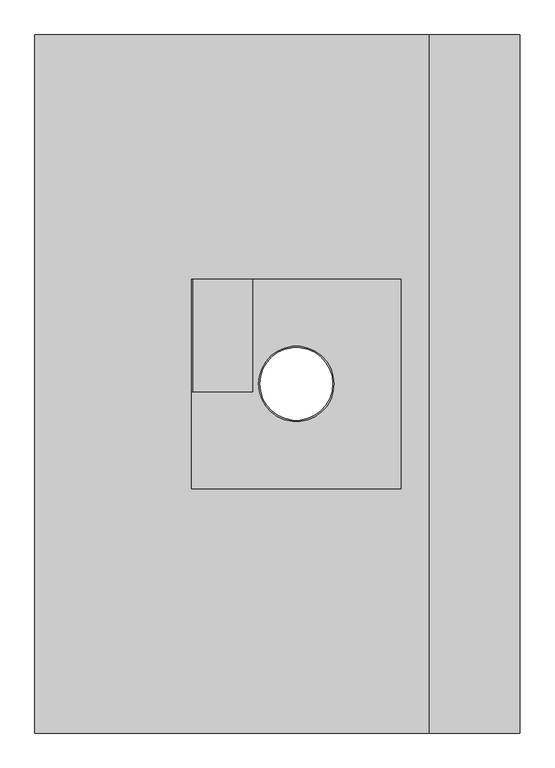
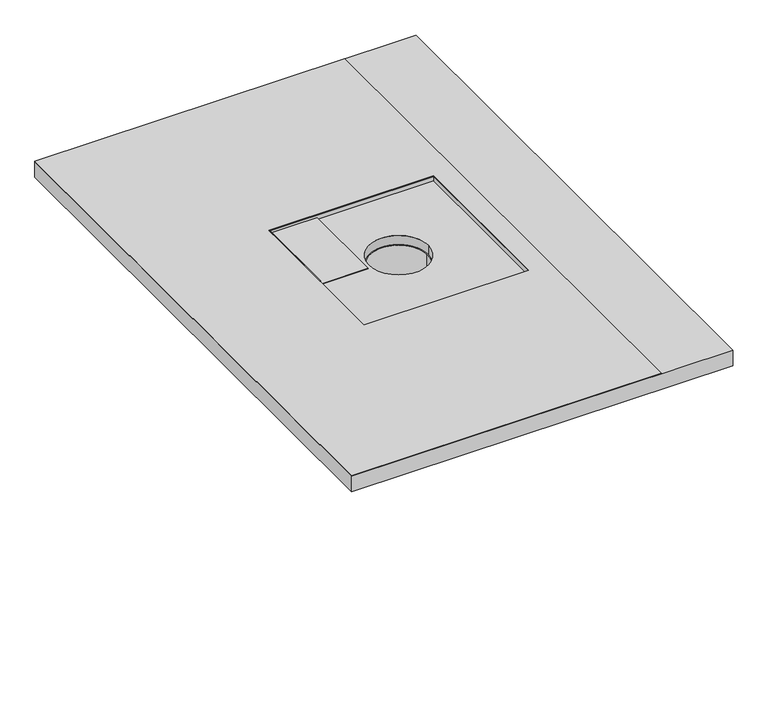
"""IFC4 building model written with IfcOpenShell, lengths in millimetres: proxy geometry, IMPER:IMPER:433934 : IMPER:IMPER:433934."""

from ifc_helpers import new_model, si_unit, point, frame, frame_2d, origin, place, context, project, spatial, polyline, circle_curve, trimmed, segment, composite_curve, outline, extrude, source, transform, mapped, element, save
from ifc_brep_helpers import plane_surface, revolved_surface, advanced_brep


def generic_models_effe8710(model_context):
    return source(origin(), model_context, "Body", "SolidModel", [
        extrude(outline(polyline([(28.5018705, 773.6644952), (28.5018705, 772.6644952), (21.4797492, 772.6644952), (21.4797492, 860.1703196), (22.4797492, 860.1703196), (22.4797492, 773.6644952), (28.5018705, 773.6644952)])), frame((0.0, -1249.0790672, 0.0), z_axis=(0.0, 1.0, 0.0), x_axis=(0.0, 0.0, 1.0)), (0.0, 0.0, 1.0), 161.0878647),
        extrude(outline(composite_curve([segment(trimmed(circle_curve(frame_2d((922.6644952, -1237.9912025)), 54.0), [point((976.6644952, -1237.9912025))], [point((868.6644952, -1237.9912025))], False, "CARTESIAN"), True, "CONTINUOUS"), segment(trimmed(circle_curve(frame_2d((922.6644952, -1237.9912025)), 54.0), [point((868.6644952, -1237.9912025))], [point((976.6644952, -1237.9912025))], False, "CARTESIAN"), True, "CONTINUOUS")], self_intersect=False), holes=[composite_curve([segment(trimmed(circle_curve(frame_2d((922.6644952, -1237.9912025)), 52.0), [point((974.6644952, -1237.9912025))], [point((870.6644952, -1237.9912025))], True, "CARTESIAN"), True, "CONTINUOUS"), segment(trimmed(circle_curve(frame_2d((922.6644952, -1237.9912025)), 52.0), [point((870.6644952, -1237.9912025))], [point((974.6644952, -1237.9912025))], True, "CARTESIAN"), True, "CONTINUOUS")], self_intersect=False)]), frame((0.0, 0.0, -340.9331242), z_axis=(0.0, 0.0, 1.0), x_axis=(1.0, 0.0, 0.0)), (0.0, 0.0, 1.0), 343.0051027),
        advanced_brep(
        [(1243.085242, -738.0570215, 27.476202), (1243.085242, -738.0570215, -2.523798), (547.8103968, -738.0570215, -2.523798), (547.8103968, -738.0570215, 27.476202), (1243.085242, -1738.0570215, 27.476202), (547.8103968, -1738.0570215, 27.476202), (547.8103968, -1738.0570215, -2.523798), (1243.085242, -1738.0570215, -2.523798), (772.6644952, -1087.9912025, 27.476202), (1072.6644952, -1087.9912025, 27.476202), (1072.6644952, -1387.9912025, 27.476202), (772.6644952, -1387.9912025, 27.476202), (976.6644952, -1237.9912025, -2.523798), (868.6644952, -1237.9912025, -2.523798), (772.6644952, -1087.9912025, 19.4061759), (1072.6644952, -1087.9912025, 19.4061759), (772.6644952, -1387.9912025, 19.4061759), (1072.6644952, -1387.9912025, 19.4061759), (868.6644952, -1237.9912025, 19.4061759), (976.6644952, -1237.9912025, 19.4061759)],
        [
            (0, 1),
            (1, 2),
            (2, 3),
            (3, 0),
            (4, 5),
            (5, 6),
            (6, 7),
            (7, 4),
            (3, 5),
            (4, 0),
            (8, 9),
            (9, 10),
            (10, 11),
            (11, 8),
            (7, 1),
            (6, 2),
            (12, 13, circle_curve(frame((922.6644952, -1237.9912025, -2.523798), z_axis=(0.0, 0.0, 1.0), x_axis=(1.0, 0.0, 0.0)), 54.0)),
            (13, 12, circle_curve(frame((922.6644952, -1237.9912025, -2.523798), z_axis=(0.0, 0.0, 1.0), x_axis=(1.0, 0.0, 0.0)), 54.0)),
            (14, 15),
            (15, 9),
            (8, 14),
            (16, 14),
            (11, 16),
            (17, 16),
            (10, 17),
            (15, 17),
            (18, 19, circle_curve(frame((922.6644952, -1237.9912025, 19.4061759), z_axis=(0.0, 0.0, -1.0), x_axis=(1.0, 0.0, 0.0)), 54.0)),
            (19, 18, circle_curve(frame((922.6644952, -1237.9912025, 19.4061759), z_axis=(0.0, 0.0, -1.0), x_axis=(1.0, 0.0, 0.0)), 54.0)),
            (12, 19),
            (18, 13),
        ],
        [
            plane_surface(frame((1243.085242, -738.0570215, -2.523798), z_axis=(0.0, 1.0, 0.0), x_axis=(0.0, 0.0, -1.0))),
            plane_surface(frame((1243.085242, -1738.0570215, -2.523798), z_axis=(0.0, -1.0, 0.0), x_axis=(0.0, 0.0, 1.0))),
            plane_surface(frame((547.8103968, -738.0570215, 27.476202), z_axis=(0.0, 0.0, 1.0), x_axis=(0.0, -1.0, 0.0))),
            plane_surface(frame((1243.085242, -738.0570215, 27.476202), z_axis=(1.0, 0.0, 0.0), x_axis=(0.0, -1.0, 0.0))),
            plane_surface(frame((1243.085242, -738.0570215, -2.523798), z_axis=(0.0, 0.0, -1.0), x_axis=(0.0, -1.0, 0.0))),
            plane_surface(frame((547.8103968, -738.0570215, -2.523798), z_axis=(-1.0, 0.0, 0.0), x_axis=(0.0, -1.0, 0.0))),
            plane_surface(frame((1072.6644952, -1087.9912025, 396.8938125), z_axis=(0.0, -1.0, 0.0), x_axis=(0.0, 0.0, -1.0))),
            plane_surface(frame((772.6644952, -1087.9912025, 396.8938125), z_axis=(1.0, 0.0, 0.0), x_axis=(0.0, 0.0, -1.0))),
            plane_surface(frame((772.6644952, -1387.9912025, 396.8938125), z_axis=(0.0, 1.0, 0.0), x_axis=(0.0, 0.0, -1.0))),
            plane_surface(frame((1072.6644952, -1387.9912025, 396.8938125), z_axis=(-1.0, 0.0, 0.0), x_axis=(0.0, 0.0, -1.0))),
            plane_surface(frame((772.6644952, -1087.9912025, 19.4061759), z_axis=(0.0, 0.0, 1.0), x_axis=(1.0, 0.0, 0.0))),
            revolved_surface(polyline([(976.6644952, -1237.9912025, 19.406175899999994), (976.6644952, -1237.9912025, -2.523798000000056)]), (922.6644952, -1237.9912025, -602.3626682), (0.0, 0.0, 1.0)),
        ],
        [
            (0, [[1, 2, 3, 4]]),
            (1, [[5, 6, 7, 8]]),
            (2, [[-4, 9, -5, 10], [11, 12, 13, 14]]),
            (3, [[-1, -10, -8, 15]]),
            (4, [[-2, -15, -7, 16], [17, 18]]),
            (5, [[-3, -16, -6, -9]]),
            (6, [[19, 20, -11, 21]]),
            (7, [[22, -21, -14, 23]]),
            (8, [[24, -23, -13, 25]]),
            (9, [[26, -25, -12, -20]]),
            (10, [[-19, -22, -24, -26], [27, 28]]),
            (11, [[-17, 29, -27, 30]]),
            (11, [[-18, -30, -28, -29]]),
        ],
    ),
        extrude(outline(polyline([(547.8103968, -738.0570215), (1112.6644952, -738.0570215), (1112.6644952, -1738.0570215), (547.8103968, -1738.0570215), (547.8103968, -738.0570215)]), holes=[polyline([(1072.6644952, -1087.9912025), (772.6644952, -1087.9912025), (772.6644952, -1387.9912025), (1072.6644952, -1387.9912025), (1072.6644952, -1087.9912025)])]), frame((0.0, 0.0, 27.476202), z_axis=(0.0, 0.0, 1.0), x_axis=(1.0, 0.0, 0.0)), (0.0, 0.0, 1.0), 1.0256685),
    ])


if __name__ == "__main__":
    model = new_model("IFC4")
    model_context = context("Model", 3, world=origin())
    ifc_project = project(units=[si_unit("LENGTHUNIT", "METRE", prefix="MILLI")], contexts=[model_context])
    site = spatial("IfcSite", under=ifc_project)
    building = spatial("IfcBuilding", under=site)
    placement = place(None, origin())
    generic_models_shape = generic_models_effe8710(model_context)
    element("IfcBuildingElementProxy", 1, Name="IMPER:IMPER:433934 : IMPER:IMPER:433934", ObjectType="IMPER:IMPER:433934 : IMPER:IMPER:433934", at=placement, inside=building, context=model_context, shape_type="MappedRepresentation", body=[
        mapped(generic_models_shape, transform((0.0, 0.0, 0.0), x_axis=(1.0, 0.0, 0.0), y_axis=(0.0, 1.0, 0.0), z_axis=(0.0, 0.0, 1.0))),
    ])
    save(model, "model.ifc")
